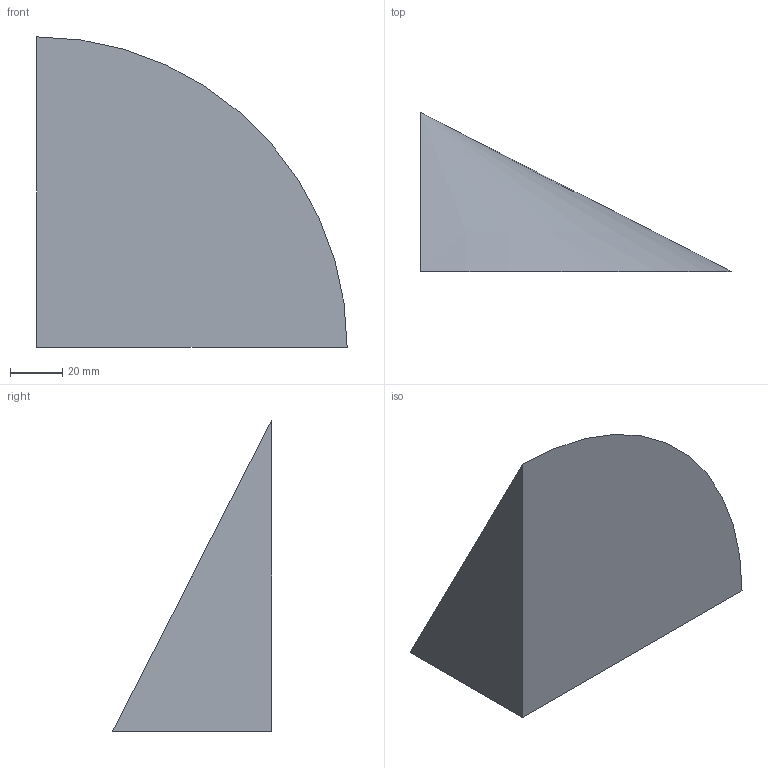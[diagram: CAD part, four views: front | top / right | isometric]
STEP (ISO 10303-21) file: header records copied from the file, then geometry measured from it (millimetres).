
FILE_DESCRIPTION(('CATIA V5 STEP Exchange'),'2;1');
FILE_NAME('C:\_Andres\UNIVERSIDAD\IQS\ASIGNATURAS\DAO\EXF\EXF-16172c\2inicio\Marra-Lopez_Llovet_Ej07_v19.stp','2017-03-05T21:18:13+00:00',('none'),('none'),'CATIA Version 5-6 Release 2014 SP1 HF18','CATIA V5 STEP AP203','none');
FILE_SCHEMA(('CONFIG_CONTROL_DESIGN'));
Length unit declared in the file: millimetre
Products named in the file (1): Marra-Lopez_Llovet_Ej07_v19
Bounding box: 119 x 61 x 119 mm (x, y, z)
Volume: 226147.8 mm3; surface area: 30879.1 mm2
Topology: 1 solids, 1 shells, 4 faces, 7 edges, 4 vertices
Faces by surface type: plane 3, cone 1
Entity records: 131 total; most frequent: CARTESIAN_POINT 15, DIRECTION 14, ORIENTED_EDGE 12, AXIS2_PLACEMENT_3D 6, EDGE_CURVE 6, VECTOR 5, LINE 5, ADVANCED_FACE 4
